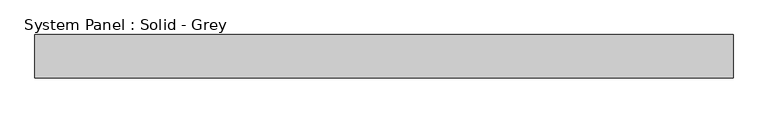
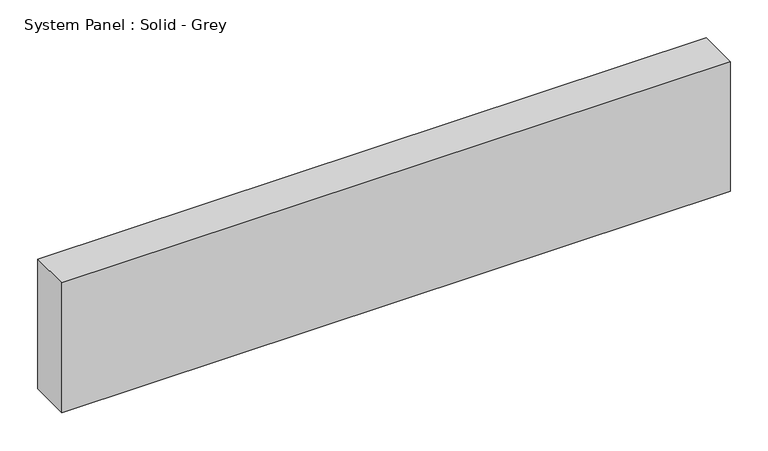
"""IFC4 building model written with IfcOpenShell, lengths in millimetres: plate geometry, System Panel : Solid - Grey."""

from ifc_helpers import new_model, si_unit, origin, origin_with_axes, place, context, project, spatial, polyline, outline, extrude, source, transform, mapped, element, save


def system_panel_solid_grey_7a3e4570(model_context):
    return source(origin(), model_context, "Body", "SweptSolid", [
        extrude(outline(polyline([(510.2678571, -19.05), (-510.2678571, -19.05), (-510.2678571, 44.45), (510.2678571, 44.45), (510.2678571, -19.05)])), origin_with_axes(), (0.0, 0.0, 1.0), 209.55),
    ])


if __name__ == "__main__":
    model = new_model("IFC4")
    model_context = context("Model", 3, world=origin())
    ifc_project = project(units=[si_unit("LENGTHUNIT", "METRE", prefix="MILLI")], contexts=[model_context])
    site = spatial("IfcSite", under=ifc_project)
    building = spatial("IfcBuilding", under=site)
    placement = place(None, origin())
    system_panel_solid_grey_shape = system_panel_solid_grey_7a3e4570(model_context)
    element("IfcPlate", 1, ObjectType="System Panel : Solid - Grey", at=placement, inside=building, context=model_context, shape_type="MappedRepresentation", body=[
        mapped(system_panel_solid_grey_shape, transform((0.0, 0.0, 0.0), x_axis=(1.0, 0.0, 0.0), y_axis=(0.0, 1.0, 0.0), z_axis=(0.0, 0.0, 1.0))),
    ])
    save(model, "model.ifc")
